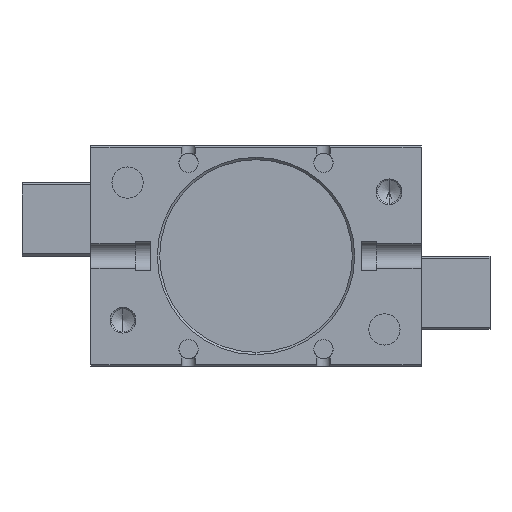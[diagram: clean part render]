
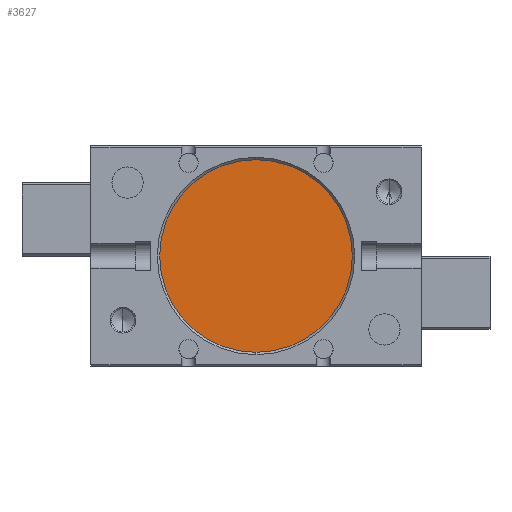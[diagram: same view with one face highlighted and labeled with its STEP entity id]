
A CAD part, front view. The second image highlights one B-rep face of the part: STEP entity #3627.
In plain terms, the highlighted planar face has unit normal (0, -1, 0).
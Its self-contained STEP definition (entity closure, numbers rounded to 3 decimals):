
#1804 = FACE_OUTER_BOUND ( 'NONE', #15250, .T. ) ;
#2056 = DIRECTION ( 'NONE',  ( 0., 0., -1. ) ) ;
#2168 = AXIS2_PLACEMENT_3D ( 'NONE', #46964, #24502, #2056 ) ;
#2927 = DIRECTION ( 'NONE',  ( 0., -1., 0. ) ) ;
#3608 = DIRECTION ( 'NONE',  ( 0., -1., 0. ) ) ;
#3627 = ADVANCED_FACE ( 'NONE', ( #1804 ), #22293, .T. ) ;
#7641 = CARTESIAN_POINT ( 'NONE',  ( 0., 3.95, 21. ) ) ;
#7831 = CIRCLE ( 'NONE', #32394, 21. ) ;
#10086 = ORIENTED_EDGE ( 'NONE', *, *, #23919, .T. ) ;
#15250 = EDGE_LOOP ( 'NONE', ( #10086, #28634 ) ) ;
#20502 = CIRCLE ( 'NONE', #2168, 21. ) ;
#22293 = PLANE ( 'NONE',  #33200 ) ;
#23919 = EDGE_CURVE ( 'NONE', #31237, #30223, #7831, .T. ) ;
#24502 = DIRECTION ( 'NONE',  ( 0., -1., 0. ) ) ;
#25406 = CARTESIAN_POINT ( 'NONE',  ( 0., 3.95, 0. ) ) ;
#26070 = CARTESIAN_POINT ( 'NONE',  ( 0., 3.95, 0. ) ) ;
#28634 = ORIENTED_EDGE ( 'NONE', *, *, #41641, .T. ) ;
#29136 = DIRECTION ( 'NONE',  ( 0., 0., -1. ) ) ;
#29807 = DIRECTION ( 'NONE',  ( 0., 0., -1. ) ) ;
#30223 = VERTEX_POINT ( 'NONE', #7641 ) ;
#31237 = VERTEX_POINT ( 'NONE', #46028 ) ;
#32394 = AXIS2_PLACEMENT_3D ( 'NONE', #25406, #2927, #29136 ) ;
#33200 = AXIS2_PLACEMENT_3D ( 'NONE', #26070, #3608, #29807 ) ;
#41641 = EDGE_CURVE ( 'NONE', #30223, #31237, #20502, .T. ) ;
#46028 = CARTESIAN_POINT ( 'NONE',  ( 0., 3.95, -21. ) ) ;
#46964 = CARTESIAN_POINT ( 'NONE',  ( 0., 3.95, 0. ) ) ;
